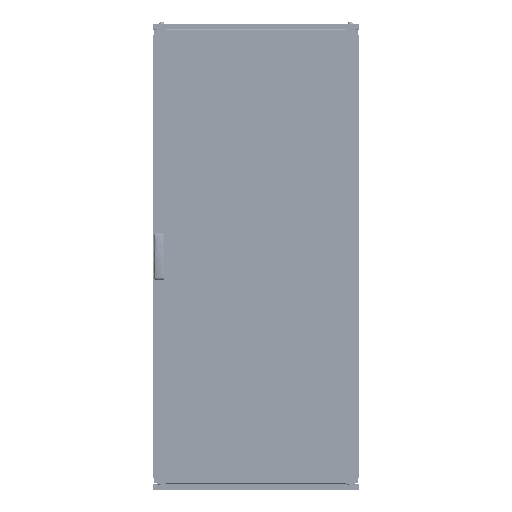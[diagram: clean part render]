
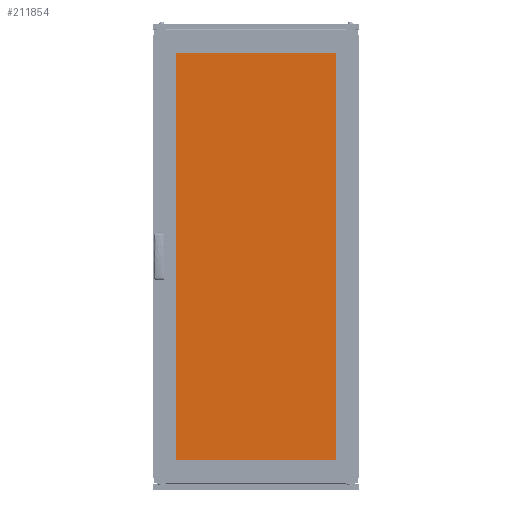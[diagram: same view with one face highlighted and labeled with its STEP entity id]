
A CAD part, top view. The second image highlights one B-rep face of the part: STEP entity #211854.
In plain terms, the highlighted planar face has unit normal (0, 0, 1).
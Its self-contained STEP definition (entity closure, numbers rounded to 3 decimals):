
#12605 = DIRECTION ( 'NONE',  ( -1., 0., 0. ) ) ;
#21887 = CARTESIAN_POINT ( 'NONE',  ( 330., -810., 5. ) ) ;
#25349 = EDGE_CURVE ( 'NONE', #189454, #181542, #52305, .T. ) ;
#27674 = EDGE_LOOP ( 'NONE', ( #217121, #161481, #109730, #201823 ) ) ;
#39506 = EDGE_CURVE ( 'NONE', #205149, #189454, #112264, .T. ) ;
#52305 = LINE ( 'NONE', #162811, #214842 ) ;
#53368 = DIRECTION ( 'NONE',  ( 0., 1., 0. ) ) ;
#61683 = VECTOR ( 'NONE', #203775, 1000. ) ;
#64949 = CARTESIAN_POINT ( 'NONE',  ( 0., 0., 5. ) ) ;
#71162 = CARTESIAN_POINT ( 'NONE',  ( -330., 810., 5. ) ) ;
#74329 = DIRECTION ( 'NONE',  ( 1., 0., 0. ) ) ;
#77390 = CARTESIAN_POINT ( 'NONE',  ( -330., -810., 5. ) ) ;
#109730 = ORIENTED_EDGE ( 'NONE', *, *, #39506, .T. ) ;
#112264 = LINE ( 'NONE', #77390, #190034 ) ;
#120800 = FACE_OUTER_BOUND ( 'NONE', #27674, .T. ) ;
#132838 = CARTESIAN_POINT ( 'NONE',  ( -330., 810., 5. ) ) ;
#135952 = PLANE ( 'NONE',  #179610 ) ;
#146228 = VECTOR ( 'NONE', #53368, 1000. ) ;
#161481 = ORIENTED_EDGE ( 'NONE', *, *, #167664, .T. ) ;
#162811 = CARTESIAN_POINT ( 'NONE',  ( -330., -810., 5. ) ) ;
#167664 = EDGE_CURVE ( 'NONE', #204635, #205149, #168830, .T. ) ;
#168830 = LINE ( 'NONE', #132838, #61683 ) ;
#179610 = AXIS2_PLACEMENT_3D ( 'NONE', #64949, #225522, #12605 ) ;
#181542 = VERTEX_POINT ( 'NONE', #225559 ) ;
#185696 = EDGE_CURVE ( 'NONE', #181542, #204635, #198692, .T. ) ;
#189454 = VERTEX_POINT ( 'NONE', #225887 ) ;
#190034 = VECTOR ( 'NONE', #201802, 1000. ) ;
#198692 = LINE ( 'NONE', #21887, #146228 ) ;
#201802 = DIRECTION ( 'NONE',  ( 0., -1., 0. ) ) ;
#201823 = ORIENTED_EDGE ( 'NONE', *, *, #25349, .T. ) ;
#203775 = DIRECTION ( 'NONE',  ( -1., 0., 0. ) ) ;
#204635 = VERTEX_POINT ( 'NONE', #205703 ) ;
#205149 = VERTEX_POINT ( 'NONE', #71162 ) ;
#205703 = CARTESIAN_POINT ( 'NONE',  ( 330., 810., 5. ) ) ;
#211854 = ADVANCED_FACE ( 'NONE', ( #120800 ), #135952, .F. ) ;
#214842 = VECTOR ( 'NONE', #74329, 1000. ) ;
#217121 = ORIENTED_EDGE ( 'NONE', *, *, #185696, .T. ) ;
#225522 = DIRECTION ( 'NONE',  ( 0., 0., -1. ) ) ;
#225559 = CARTESIAN_POINT ( 'NONE',  ( 330., -810., 5. ) ) ;
#225887 = CARTESIAN_POINT ( 'NONE',  ( -330., -810., 5. ) ) ;
